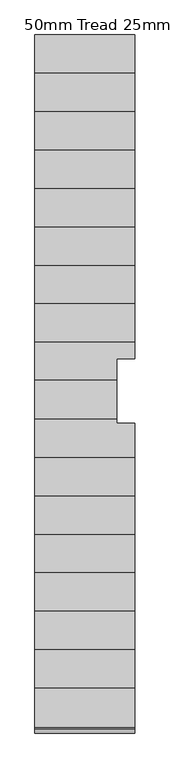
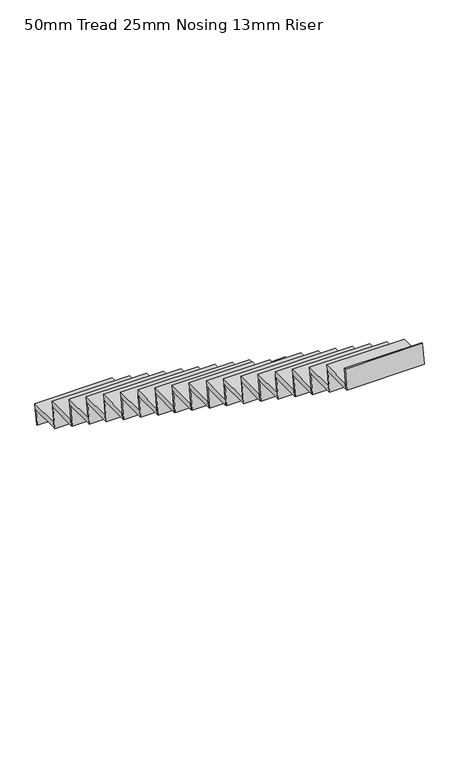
"""IFC4 building model written with IfcOpenShell, lengths in millimetres: stair flight geometry, 50mm Tread 25mm Nosing 13mm Riser."""

import ifcopenshell
import ifcopenshell.guid

model = None  # the IFC model being written
_history = None  # IfcOwnerHistory: only IFC2X3 demands one
_inside = {}  # id of a spatial element -> (the spatial element, [elements in it])
_under = {}  # id of a project, library or spatial element -> (it, [spatial elements below it])
_declared = {}  # id of a project -> (the project, [libraries it declares])
_typed = {}  # id of a type object -> (the type object, [elements of that type])
_made_of = {}  # id of a material, layer set ... -> (it, [elements and type objects made of it])


def new_model(schema):
    """Start an empty IFC model of exactly this schema.

    Asked for "IFC4X3", IfcOpenShell would pick the latest addendum, in which some entities
    have other attributes; the version numbers below select the first issue.
    IFC2X3 requires an IfcOwnerHistory on every rooted entity: one is made here for all.
    """
    global model, _history
    if schema == "IFC4X3":
        model = ifcopenshell.file(schema_version=(4, 3, 0, 0))
    else:
        model = ifcopenshell.file(schema=schema)
    _inside.clear()
    _under.clear()
    _declared.clear()
    _typed.clear()
    _made_of.clear()
    _history = None
    if model.schema == "IFC2X3":
        org = make("IfcOrganization", Name="unknown")
        user = make(
            "IfcPersonAndOrganization",
            ThePerson=make("IfcPerson", FamilyName="unknown"),
            TheOrganization=org,
        )
        app = make(
            "IfcApplication",
            ApplicationDeveloper=org,
            Version="unknown",
            ApplicationFullName="unknown",
            ApplicationIdentifier="unknown",
        )
        _history = make(
            "IfcOwnerHistory",
            OwningUser=user,
            OwningApplication=app,
            ChangeAction="ADDED",
            CreationDate=0,
        )
    return model


def make(cls, **values):
    """One entity of the class cls with the attributes given. An attribute that is None is left unset."""
    return model.create_entity(
        cls, **{name: value for name, value in values.items() if value is not None}
    )


def rooted(cls, **values):
    """An entity with a GlobalId (a new one), such as an element, a storey or a relation."""
    return make(cls, GlobalId=ifcopenshell.guid.new(), OwnerHistory=_history, **values)


def si_unit(unit_type, name, prefix=None):
    """IfcSIUnit, for example si_unit("LENGTHUNIT", "METRE", prefix="MILLI")."""
    return make("IfcSIUnit", UnitType=unit_type, Prefix=prefix, Name=name)


def assignment(units):
    """IfcUnitAssignment: the units of a project."""
    return None if units is None else make("IfcUnitAssignment", Units=units)


def point(xyz):
    """IfcCartesianPoint."""
    return None if xyz is None else make("IfcCartesianPoint", Coordinates=xyz)


def direction(xyz):
    """IfcDirection."""
    return None if xyz is None else make("IfcDirection", DirectionRatios=xyz)


def frame(location, z_axis=None, x_axis=None):
    """IfcAxis2Placement3D, a coordinate frame: its origin and axes. An axis left out is left unset."""
    return make(
        "IfcAxis2Placement3D",
        Location=point(location),
        Axis=direction(z_axis),
        RefDirection=direction(x_axis),
    )


def origin():
    """The frame at (0, 0, 0) with its axes left unset."""
    return frame((0.0, 0.0, 0.0))


def place(relative_to, where):
    """IfcLocalPlacement: puts the frame where relative to a parent placement (None: the world)."""
    return make(
        "IfcLocalPlacement", PlacementRelTo=relative_to, RelativePlacement=where
    )


def context(
    kind, dimensions, precision=None, world=None, true_north=None, identifier=None
):
    """IfcGeometricRepresentationContext, for example the 3D "Model" context."""
    return make(
        "IfcGeometricRepresentationContext",
        ContextIdentifier=identifier,
        ContextType=kind,
        CoordinateSpaceDimension=dimensions,
        Precision=precision,
        WorldCoordinateSystem=world,
        TrueNorth=true_north,
    )


def project(units=None, contexts=None):
    """IfcProject with its units and contexts."""
    return rooted(
        "IfcProject",
        Name="project",
        RepresentationContexts=contexts,
        UnitsInContext=assignment(units),
    )


def spatial(cls, under=None, at=None, **own):
    """A site, building, storey or space (cls), placed at a placement, below another one or the project."""
    s = rooted(cls, ObjectPlacement=at, **own)
    if under is not None:
        _under.setdefault(under.id(), (under, []))[1].append(s)
    return s


def faces_of(points, faces, orient=None, outer=None):
    """IfcFace entities. A face is a list of loops; a loop is a list of indices into points, from 0.

    orient and outer hold one flag for each loop. By default every Orientation is true, the
    first loop of a face is its IfcFaceOuterBound and the others are IfcFaceBound.
    """
    made = []
    for i, loops in enumerate(faces):
        bounds = []
        for j, loop in enumerate(loops):
            is_outer = j == 0 if outer is None else outer[i][j]
            bounds.append(
                make(
                    "IfcFaceOuterBound" if is_outer else "IfcFaceBound",
                    Bound=make("IfcPolyLoop", Polygon=[points[k] for k in loop]),
                    Orientation=True if orient is None else orient[i][j],
                )
            )
        made.append(make("IfcFace", Bounds=bounds))
    return made


def faceted_brep(points, faces, orient=None, outer=None, voids=None):
    """IfcFacetedBrep: a solid bounded by flat faces; with voids (closed shells), ...WithVoids."""
    shared = [point(p) for p in points]
    hull = make("IfcClosedShell", CfsFaces=faces_of(shared, faces, orient, outer))
    if voids is None:
        return make("IfcFacetedBrep", Outer=hull)
    return make(
        "IfcFacetedBrepWithVoids",
        Outer=hull,
        Voids=[
            make(cls, CfsFaces=faces_of(shared, fs, o, b)) for cls, fs, o, b in voids
        ],
    )


def shape(context_of_items, identifier, shape_type, items):
    """IfcShapeRepresentation: the items that make up one representation, for example the "Body"."""
    return make(
        "IfcShapeRepresentation",
        ContextOfItems=context_of_items,
        RepresentationIdentifier=identifier,
        RepresentationType=shape_type,
        Items=items,
    )


def source(mapping_origin, context_of_items, identifier, shape_type, items):
    """IfcRepresentationMap: a shape defined once, which mapped items show again and again."""
    return make(
        "IfcRepresentationMap",
        MappingOrigin=mapping_origin,
        MappedRepresentation=shape(context_of_items, identifier, shape_type, items),
    )


def transform(
    local_origin,
    x_axis=None,
    y_axis=None,
    z_axis=None,
    scale=None,
    scale2=None,
    scale3=None,
    uniform=True,
):
    """IfcCartesianTransformationOperator3D, or its non-uniform kind. x_axis, y_axis, z_axis: its Axis1, 2, 3."""
    if uniform:
        return make(
            "IfcCartesianTransformationOperator3D",
            Axis1=direction(x_axis),
            Axis2=direction(y_axis),
            LocalOrigin=point(local_origin),
            Scale=scale,
            Axis3=direction(z_axis),
        )
    return make(
        "IfcCartesianTransformationOperator3DnonUniform",
        Axis1=direction(x_axis),
        Axis2=direction(y_axis),
        LocalOrigin=point(local_origin),
        Scale=scale,
        Axis3=direction(z_axis),
        Scale2=scale2,
        Scale3=scale3,
    )


def mapped(mapping_source, mapping_target):
    """IfcMappedItem: shows the shape of a source again, moved by a transform."""
    return make(
        "IfcMappedItem", MappingSource=mapping_source, MappingTarget=mapping_target
    )


def made_of(thing, what):
    """Note that an element or type object is made of a material, layer set ...; save() writes the relation."""
    if what is not None:
        _made_of.setdefault(what.id(), (what, []))[1].append(thing)
    return thing


def element(
    cls,
    number,
    at=None,
    inside=None,
    cuts=None,
    type_object=None,
    material=None,
    context=None,
    identifier="Body",
    shape_type=None,
    held_by="IfcProductDefinitionShape",
    body=None,
    shapes=None,
    **own,
):
    """One element of the class cls, such as IfcWall. Its Tag is "e" and its number.

    at: its placement. inside: the storey or other place that contains it. cuts: it is an
    opening in that element (IfcRelVoidsElement). A single representation is given by context,
    identifier, shape_type and body (its items); several are given by shapes. held_by: the class
    of the entity that holds the representations. save() writes the other relations.
    """
    e = rooted(cls, Tag="e%d" % number, ObjectPlacement=at, **own)
    if body is not None:
        shapes = [shape(context, identifier, shape_type, body)]
    if shapes is not None:
        e.Representation = make(held_by, Representations=shapes)
    if inside is not None:
        _inside.setdefault(inside.id(), (inside, []))[1].append(e)
    if cuts is not None:
        rooted(
            "IfcRelVoidsElement", RelatingBuildingElement=cuts, RelatedOpeningElement=e
        )
    if type_object is not None:
        _typed.setdefault(type_object.id(), (type_object, []))[1].append(e)
    return made_of(e, material)


def aggregate(whole, parts):
    """IfcRelAggregates: a whole, such as a stair, and the parts it consists of."""
    return rooted("IfcRelAggregates", RelatingObject=whole, RelatedObjects=parts)


def save(model, path):
    """Write the relations noted so far, then the file.

    IfcRelAggregates (storeys below a building ...), IfcRelContainedInSpatialStructure (elements
    in a storey), IfcRelDefinesByType, IfcRelAssociatesMaterial and IfcRelDeclares: one each for
    every whole, place, type object, material and project.
    """
    for whole, parts in _under.values():
        aggregate(whole, parts)
    for where, things in _inside.values():
        rooted(
            "IfcRelContainedInSpatialStructure",
            RelatedElements=things,
            RelatingStructure=where,
        )
    for kind, things in _typed.values():
        rooted("IfcRelDefinesByType", RelatedObjects=things, RelatingType=kind)
    for what, things in _made_of.values():
        rooted("IfcRelAssociatesMaterial", RelatedObjects=things, RelatingMaterial=what)
    for by, libraries in _declared.values():
        rooted("IfcRelDeclares", RelatingContext=by, RelatedDefinitions=libraries)
    model.write(path)


def stair_flight_50mm_tread_25mm_nosing_13mm_riser_46b21143(model_context):
    return source(origin(), model_context, "Body", "Brep", [
        faceted_brep([(-6813.55, 5573.9361, -2558.7157895), (-6813.55, 5567.1604524, -2608.7157895), (-6115.05, 5567.1604524, -2608.7157895), (-6115.05, 5573.9361, -2558.7157895), (-6115.05, 5867.4, -2558.7157895), (-6813.55, 5867.4, -2558.7157895), (-6813.55, 5860.6243524, -2608.7157895), (-6115.05, 5860.6243524, -2608.7157895)], [[[0, 1, 2, 3]], [[3, 4, 5, 0]], [[2, 1, 6, 7]], [[4, 3, 2, 7]], [[0, 5, 6, 1]], [[5, 4, 7, 6]]]),
        faceted_brep([(-6813.55, 5860.6243524, -2608.7157895), (-6813.55, 5842.4, -2743.2), (-6813.55, 5829.7857486, -2743.2), (-6813.55, 5848.010101, -2608.7157895), (-6115.05, 5860.6243524, -2608.7157895), (-6115.05, 5848.010101, -2608.7157895), (-6115.05, 5829.7857486, -2743.2), (-6115.05, 5842.4, -2743.2)], [[[0, 1, 2, 3]], [[4, 5, 6, 7]], [[1, 0, 4, 7]], [[2, 1, 7, 6]], [[3, 2, 6, 5]], [[0, 3, 5, 4]]]),
        faceted_brep([(-6813.55, 5592.1604524, -2424.2315789), (-6813.55, 5567.1604524, -2608.7157895), (-6813.55, 5554.546201, -2608.7157895), (-6813.55, 5579.546201, -2424.2315789), (-6115.05, 5592.1604524, -2424.2315789), (-6115.05, 5579.546201, -2424.2315789), (-6115.05, 5554.546201, -2608.7157895), (-6115.05, 5567.1604524, -2608.7157895)], [[[0, 1, 2, 3]], [[4, 5, 6, 7]], [[1, 0, 4, 7]], [[2, 1, 7, 6]], [[3, 2, 6, 5]], [[0, 3, 5, 4]]]),
        faceted_brep([(-6115.05, 5305.4722, -2374.2315789), (-6115.05, 5598.9361, -2374.2315789), (-6813.55, 5598.9361, -2374.2315789), (-6813.55, 5305.4722, -2374.2315789), (-6115.05, 5298.6965524, -2424.2315789), (-6813.55, 5298.6965524, -2424.2315789), (-6813.55, 5592.1604524, -2424.2315789), (-6115.05, 5592.1604524, -2424.2315789)], [[[0, 1, 2, 3]], [[4, 5, 6, 7]], [[1, 0, 4, 7]], [[3, 2, 6, 5]], [[3, 5, 4, 0]], [[2, 1, 7, 6]]]),
        faceted_brep([(-6813.55, 5323.6965524, -2239.7473684), (-6813.55, 5298.6965524, -2424.2315789), (-6813.55, 5286.082301, -2424.2315789), (-6813.55, 5311.082301, -2239.7473684), (-6115.05, 5323.6965524, -2239.7473684), (-6115.05, 5311.082301, -2239.7473684), (-6115.05, 5286.082301, -2424.2315789), (-6115.05, 5298.6965524, -2424.2315789)], [[[0, 1, 2, 3]], [[4, 5, 6, 7]], [[1, 0, 4, 7]], [[2, 1, 7, 6]], [[3, 2, 6, 5]], [[0, 3, 5, 4]]]),
        faceted_brep([(-6115.05, 5037.0083, -2189.7473684), (-6115.05, 5330.4722, -2189.7473684), (-6813.55, 5330.4722, -2189.7473684), (-6813.55, 5037.0083, -2189.7473684), (-6115.05, 5030.2326524, -2239.7473684), (-6813.55, 5030.2326524, -2239.7473684), (-6813.55, 5323.6965524, -2239.7473684), (-6115.05, 5323.6965524, -2239.7473684)], [[[0, 1, 2, 3]], [[4, 5, 6, 7]], [[1, 0, 4, 7]], [[3, 2, 6, 5]], [[3, 5, 4, 0]], [[2, 1, 7, 6]]]),
        faceted_brep([(-6813.55, 5055.2326524, -2055.2631579), (-6813.55, 5030.2326524, -2239.7473684), (-6813.55, 5017.618401, -2239.7473684), (-6813.55, 5042.618401, -2055.2631579), (-6115.05, 5055.2326524, -2055.2631579), (-6115.05, 5042.618401, -2055.2631579), (-6115.05, 5017.618401, -2239.7473684), (-6115.05, 5030.2326524, -2239.7473684)], [[[0, 1, 2, 3]], [[4, 5, 6, 7]], [[1, 0, 4, 7]], [[2, 1, 7, 6]], [[3, 2, 6, 5]], [[0, 3, 5, 4]]]),
        faceted_brep([(-6115.05, 4768.5444, -2005.2631579), (-6115.05, 5062.0083, -2005.2631579), (-6813.55, 5062.0083, -2005.2631579), (-6813.55, 4768.5444, -2005.2631579), (-6115.05, 4761.7687524, -2055.2631579), (-6813.55, 4761.7687524, -2055.2631579), (-6813.55, 5055.2326524, -2055.2631579), (-6115.05, 5055.2326524, -2055.2631579)], [[[0, 1, 2, 3]], [[4, 5, 6, 7]], [[1, 0, 4, 7]], [[3, 2, 6, 5]], [[3, 5, 4, 0]], [[2, 1, 7, 6]]]),
        faceted_brep([(-6813.55, 4786.7687524, -1870.7789474), (-6813.55, 4761.7687524, -2055.2631579), (-6813.55, 4749.154501, -2055.2631579), (-6813.55, 4774.154501, -1870.7789474), (-6115.05, 4786.7687524, -1870.7789474), (-6115.05, 4774.154501, -1870.7789474), (-6115.05, 4749.154501, -2055.2631579), (-6115.05, 4761.7687524, -2055.2631579)], [[[0, 1, 2, 3]], [[4, 5, 6, 7]], [[1, 0, 4, 7]], [[2, 1, 7, 6]], [[3, 2, 6, 5]], [[0, 3, 5, 4]]]),
        faceted_brep([(-6115.05, 4500.0806, -1820.7789474), (-6115.05, 4793.5444, -1820.7789474), (-6813.55, 4793.5444, -1820.7789474), (-6813.55, 4500.0806, -1820.7789474), (-6115.05, 4493.3049524, -1870.7789474), (-6813.55, 4493.3049524, -1870.7789474), (-6813.55, 4786.7687524, -1870.7789474), (-6115.05, 4786.7687524, -1870.7789474)], [[[0, 1, 2, 3]], [[4, 5, 6, 7]], [[1, 0, 4, 7]], [[3, 2, 6, 5]], [[3, 5, 4, 0]], [[2, 1, 7, 6]]]),
        faceted_brep([(-6813.55, 4518.3049524, -1686.2947368), (-6813.55, 4493.3049524, -1870.7789474), (-6813.55, 4480.690701, -1870.7789474), (-6813.55, 4505.690701, -1686.2947368), (-6115.05, 4518.3049524, -1686.2947368), (-6115.05, 4505.690701, -1686.2947368), (-6115.05, 4480.690701, -1870.7789474), (-6115.05, 4493.3049524, -1870.7789474)], [[[0, 1, 2, 3]], [[4, 5, 6, 7]], [[1, 0, 4, 7]], [[2, 1, 7, 6]], [[3, 2, 6, 5]], [[0, 3, 5, 4]]]),
        faceted_brep([(-6115.05, 4231.6167, -1636.2947368), (-6115.05, 4525.0806, -1636.2947368), (-6813.55, 4525.0806, -1636.2947368), (-6813.55, 4231.6167, -1636.2947368), (-6115.05, 4224.8410524, -1686.2947368), (-6813.55, 4224.8410524, -1686.2947368), (-6813.55, 4518.3049524, -1686.2947368), (-6115.05, 4518.3049524, -1686.2947368)], [[[0, 1, 2, 3]], [[4, 5, 6, 7]], [[1, 0, 4, 7]], [[3, 2, 6, 5]], [[3, 5, 4, 0]], [[2, 1, 7, 6]]]),
        faceted_brep([(-6813.55, 4249.8410524, -1501.8105263), (-6813.55, 4224.8410524, -1686.2947368), (-6813.55, 4212.226801, -1686.2947368), (-6813.55, 4237.226801, -1501.8105263), (-6115.05, 4249.8410524, -1501.8105263), (-6115.05, 4237.226801, -1501.8105263), (-6115.05, 4212.226801, -1686.2947368), (-6115.05, 4224.8410524, -1686.2947368)], [[[0, 1, 2, 3]], [[4, 5, 6, 7]], [[1, 0, 4, 7]], [[2, 1, 7, 6]], [[3, 2, 6, 5]], [[0, 3, 5, 4]]]),
        faceted_brep([(-6115.05, 3963.1528, -1451.8105263), (-6115.05, 4256.6167, -1451.8105263), (-6813.55, 4256.6167, -1451.8105263), (-6813.55, 3963.1528, -1451.8105263), (-6115.05, 3956.3771524, -1501.8105263), (-6813.55, 3956.3771524, -1501.8105263), (-6813.55, 4249.8410524, -1501.8105263), (-6115.05, 4249.8410524, -1501.8105263)], [[[0, 1, 2, 3]], [[4, 5, 6, 7]], [[1, 0, 4, 7]], [[3, 2, 6, 5]], [[3, 5, 4, 0]], [[2, 1, 7, 6]]]),
        faceted_brep([(-6813.55, 3712.9132524, -1132.8421053), (-6813.55, 3687.9132524, -1317.3263158), (-6813.55, 3675.299001, -1317.3263158), (-6813.55, 3700.299001, -1132.8421053), (-6115.05, 3712.9132524, -1132.8421053), (-6115.05, 3700.299001, -1132.8421053), (-6115.05, 3675.299001, -1317.3263158), (-6115.05, 3687.9132524, -1317.3263158)], [[[0, 1, 2, 3]], [[4, 5, 6, 7]], [[1, 0, 4, 7]], [[2, 1, 7, 6]], [[3, 2, 6, 5]], [[0, 3, 5, 4]]]),
        faceted_brep([(-6242.05, 3429.4, -1082.8421053), (-6242.05, 3606.8, -1082.8421053), (-6115.05, 3606.8, -1082.8421053), (-6115.05, 3719.6889, -1082.8421053), (-6813.55, 3719.6889, -1082.8421053), (-6813.55, 3429.4, -1082.8421053), (-6115.05, 3606.8, -1132.8421053), (-6242.05, 3606.8, -1132.8421053), (-6242.05, 3422.6243524, -1132.8421053), (-6813.55, 3422.6243524, -1132.8421053), (-6813.55, 3712.9132524, -1132.8421053), (-6115.05, 3712.9132524, -1132.8421053)], [[[0, 1, 2, 3, 4, 5]], [[6, 7, 8, 9, 10, 11]], [[1, 0, 8, 7]], [[5, 4, 10, 9]], [[5, 9, 8, 0]], [[4, 3, 11, 10]], [[2, 1, 7, 6]], [[3, 2, 6, 11]]]),
        faceted_brep([(-6813.55, 3447.6243524, -948.3578947), (-6813.55, 3422.6243524, -1132.8421053), (-6813.55, 3410.010101, -1132.8421053), (-6813.55, 3435.010101, -948.3578947), (-6242.05, 3447.6243524, -948.3578947), (-6242.05, 3435.010101, -948.3578947), (-6242.05, 3410.010101, -1132.8421053), (-6242.05, 3422.6243524, -1132.8421053)], [[[0, 1, 2, 3]], [[4, 5, 6, 7]], [[1, 0, 4, 7]], [[2, 1, 7, 6]], [[3, 2, 6, 5]], [[0, 3, 5, 4]]]),
        faceted_brep([(-6242.05, 3156.3499238, -898.3578947), (-6242.05, 3454.4, -898.3578947), (-6813.55, 3454.4, -898.3578947), (-6813.55, 3157.7610238, -898.3578947), (-6242.05, 3149.5742555, -948.3578947), (-6813.55, 3150.9853555, -948.3578947), (-6813.55, 3447.6243524, -948.3578947), (-6242.05, 3447.6243524, -948.3578947)], [[[0, 1, 2, 3]], [[4, 5, 6, 7]], [[1, 0, 4, 7]], [[3, 2, 6, 5]], [[3, 5, 4, 0]], [[2, 1, 7, 6]]]),
        faceted_brep([(-6813.55, 3175.9854317, -763.8736842), (-6813.55, 3150.9853555, -948.3578947), (-6813.55, 3138.3710657, -948.3578947), (-6813.55, 3163.3711419, -763.8736842), (-6242.05, 3174.5743317, -763.8736842), (-6242.05, 3161.9600419, -763.8736842), (-6242.05, 3136.9599657, -948.3578947), (-6242.05, 3149.5742555, -948.3578947)], [[[0, 1, 2, 3]], [[4, 5, 6, 7]], [[1, 0, 4, 7]], [[2, 1, 7, 6]], [[3, 2, 6, 5]], [[0, 3, 5, 4]]]),
        faceted_brep([(-6115.05, 2889.2972, -713.8736842), (-6115.05, 3155.95, -713.8736842), (-6242.05, 3155.95, -713.8736842), (-6242.05, 3181.35, -713.8736842), (-6813.55, 3182.7611, -713.8736842), (-6813.55, 2889.2972, -713.8736842), (-6242.05, 3155.95, -763.8736842), (-6115.05, 3155.95, -763.8736842), (-6115.05, 2882.5215524, -763.8736842), (-6813.55, 2882.5215524, -763.8736842), (-6813.55, 3175.9854317, -763.8736842), (-6242.05, 3174.5743317, -763.8736842)], [[[0, 1, 2, 3, 4, 5]], [[6, 7, 8, 9, 10, 11]], [[1, 0, 8, 7]], [[5, 4, 10, 9]], [[5, 9, 8, 0]], [[4, 3, 11, 10]], [[2, 1, 7, 6]], [[3, 2, 6, 11]]]),
        faceted_brep([(-6813.55, 2370.5937524, -210.4210526), (-6813.55, 2345.5937524, -394.9052632), (-6813.55, 2332.979501, -394.9052632), (-6813.55, 2357.979501, -210.4210526), (-6115.05, 2370.5937524, -210.4210526), (-6115.05, 2357.979501, -210.4210526), (-6115.05, 2332.979501, -394.9052632), (-6115.05, 2345.5937524, -394.9052632)], [[[0, 1, 2, 3]], [[4, 5, 6, 7]], [[1, 0, 4, 7]], [[2, 1, 7, 6]], [[3, 2, 6, 5]], [[0, 3, 5, 4]]]),
        faceted_brep([(-6115.05, 2083.9056, -160.4210526), (-6115.05, 2377.3694, -160.4210526), (-6813.55, 2377.3694, -160.4210526), (-6813.55, 2083.9056, -160.4210526), (-6115.05, 2077.1299524, -210.4210526), (-6813.55, 2077.1299524, -210.4210526), (-6813.55, 2370.5937524, -210.4210526), (-6115.05, 2370.5937524, -210.4210526)], [[[0, 1, 2, 3]], [[4, 5, 6, 7]], [[1, 0, 4, 7]], [[3, 2, 6, 5]], [[3, 5, 4, 0]], [[2, 1, 7, 6]]]),
        faceted_brep([(-6813.55, 2102.1299524, -25.9368421), (-6813.55, 2077.1299524, -210.4210526), (-6813.55, 2064.515701, -210.4210526), (-6813.55, 2089.515701, -25.9368421), (-6115.05, 2102.1299524, -25.9368421), (-6115.05, 2089.515701, -25.9368421), (-6115.05, 2064.515701, -210.4210526), (-6115.05, 2077.1299524, -210.4210526)], [[[0, 1, 2, 3]], [[4, 5, 6, 7]], [[1, 0, 4, 7]], [[2, 1, 7, 6]], [[3, 2, 6, 5]], [[0, 3, 5, 4]]]),
        faceted_brep([(-6115.05, 1815.4417, 24.0631579), (-6115.05, 2108.9056, 24.0631579), (-6813.55, 2108.9056, 24.0631579), (-6813.55, 1815.4417, 24.0631579), (-6115.05, 1808.6660524, -25.9368421), (-6813.55, 1808.6660524, -25.9368421), (-6813.55, 2102.1299524, -25.9368421), (-6115.05, 2102.1299524, -25.9368421)], [[[0, 1, 2, 3]], [[4, 5, 6, 7]], [[1, 0, 4, 7]], [[3, 2, 6, 5]], [[3, 5, 4, 0]], [[2, 1, 7, 6]]]),
        faceted_brep([(-6813.55, 1833.6660524, 158.5473684), (-6813.55, 1808.6660524, -25.9368421), (-6813.55, 1796.051801, -25.9368421), (-6813.55, 1821.051801, 158.5473684), (-6115.05, 1833.6660524, 158.5473684), (-6115.05, 1821.051801, 158.5473684), (-6115.05, 1796.051801, -25.9368421), (-6115.05, 1808.6660524, -25.9368421)], [[[0, 1, 2, 3]], [[4, 5, 6, 7]], [[1, 0, 4, 7]], [[2, 1, 7, 6]], [[3, 2, 6, 5]], [[0, 3, 5, 4]]]),
        faceted_brep([(-6115.05, 1546.9778, 208.5473684), (-6115.05, 1840.4417, 208.5473684), (-6813.55, 1840.4417, 208.5473684), (-6813.55, 1546.9778, 208.5473684), (-6115.05, 1540.2021524, 158.5473684), (-6813.55, 1540.2021524, 158.5473684), (-6813.55, 1833.6660524, 158.5473684), (-6115.05, 1833.6660524, 158.5473684)], [[[0, 1, 2, 3]], [[4, 5, 6, 7]], [[1, 0, 4, 7]], [[3, 2, 6, 5]], [[3, 5, 4, 0]], [[2, 1, 7, 6]]]),
        faceted_brep([(-6813.55, 1565.2021524, 343.0315789), (-6813.55, 1540.2021524, 158.5473684), (-6813.55, 1527.587901, 158.5473684), (-6813.55, 1552.587901, 343.0315789), (-6115.05, 1565.2021524, 343.0315789), (-6115.05, 1552.587901, 343.0315789), (-6115.05, 1527.587901, 158.5473684), (-6115.05, 1540.2021524, 158.5473684)], [[[0, 1, 2, 3]], [[4, 5, 6, 7]], [[1, 0, 4, 7]], [[2, 1, 7, 6]], [[3, 2, 6, 5]], [[0, 3, 5, 4]]]),
        faceted_brep([(-6115.05, 1278.5139, 393.0315789), (-6115.05, 1571.9778, 393.0315789), (-6813.55, 1571.9778, 393.0315789), (-6813.55, 1278.5139, 393.0315789), (-6115.05, 1271.7382524, 343.0315789), (-6813.55, 1271.7382524, 343.0315789), (-6813.55, 1565.2021524, 343.0315789), (-6115.05, 1565.2021524, 343.0315789)], [[[0, 1, 2, 3]], [[4, 5, 6, 7]], [[1, 0, 4, 7]], [[3, 2, 6, 5]], [[3, 5, 4, 0]], [[2, 1, 7, 6]]]),
        faceted_brep([(-6813.55, 1296.7382524, 527.5157895), (-6813.55, 1271.7382524, 343.0315789), (-6813.55, 1259.124001, 343.0315789), (-6813.55, 1284.124001, 527.5157895), (-6115.05, 1296.7382524, 527.5157895), (-6115.05, 1284.124001, 527.5157895), (-6115.05, 1259.124001, 343.0315789), (-6115.05, 1271.7382524, 343.0315789)], [[[0, 1, 2, 3]], [[4, 5, 6, 7]], [[1, 0, 4, 7]], [[2, 1, 7, 6]], [[3, 2, 6, 5]], [[0, 3, 5, 4]]]),
        faceted_brep([(-6813.55, 1028.2743524, 712.0), (-6813.55, 1003.2743524, 527.5157895), (-6813.55, 990.660101, 527.5157895), (-6813.55, 1015.660101, 712.0), (-6115.05, 1028.2743524, 712.0), (-6115.05, 1015.660101, 712.0), (-6115.05, 990.660101, 527.5157895), (-6115.05, 1003.2743524, 527.5157895)], [[[0, 1, 2, 3]], [[4, 5, 6, 7]], [[1, 0, 4, 7]], [[2, 1, 7, 6]], [[3, 2, 6, 5]], [[0, 3, 5, 4]]]),
        faceted_brep([(-6115.05, 1010.05, 577.5157895), (-6115.05, 1303.5139, 577.5157895), (-6813.55, 1303.5139, 577.5157895), (-6813.55, 1010.05, 577.5157895), (-6115.05, 1003.2743524, 527.5157895), (-6813.55, 1003.2743524, 527.5157895), (-6813.55, 1296.7382524, 527.5157895), (-6115.05, 1296.7382524, 527.5157895)], [[[0, 1, 2, 3]], [[4, 5, 6, 7]], [[1, 0, 4, 7]], [[3, 2, 6, 5]], [[3, 5, 4, 0]], [[2, 1, 7, 6]]]),
        faceted_brep([(-6813.55, 3981.3771524, -1317.3263158), (-6813.55, 3956.3771524, -1501.8105263), (-6813.55, 3943.762901, -1501.8105263), (-6813.55, 3968.762901, -1317.3263158), (-6115.05, 3981.3771524, -1317.3263158), (-6115.05, 3968.762901, -1317.3263158), (-6115.05, 3943.762901, -1501.8105263), (-6115.05, 3956.3771524, -1501.8105263)], [[[0, 1, 2, 3]], [[4, 5, 6, 7]], [[1, 0, 4, 7]], [[2, 1, 7, 6]], [[3, 2, 6, 5]], [[0, 3, 5, 4]]]),
        faceted_brep([(-6115.05, 3694.6889, -1267.3263158), (-6115.05, 3988.1528, -1267.3263158), (-6813.55, 3988.1528, -1267.3263158), (-6813.55, 3694.6889, -1267.3263158), (-6115.05, 3687.9132524, -1317.3263158), (-6813.55, 3687.9132524, -1317.3263158), (-6813.55, 3981.3771524, -1317.3263158), (-6115.05, 3981.3771524, -1317.3263158)], [[[0, 1, 2, 3]], [[4, 5, 6, 7]], [[1, 0, 4, 7]], [[3, 2, 6, 5]], [[3, 5, 4, 0]], [[2, 1, 7, 6]]]),
        faceted_brep([(-6813.55, 2907.5215524, -579.3894737), (-6813.55, 2882.5215524, -763.8736842), (-6813.55, 2869.907301, -763.8736842), (-6813.55, 2894.907301, -579.3894737), (-6115.05, 2907.5215524, -579.3894737), (-6115.05, 2894.907301, -579.3894737), (-6115.05, 2869.907301, -763.8736842), (-6115.05, 2882.5215524, -763.8736842)], [[[0, 1, 2, 3]], [[4, 5, 6, 7]], [[1, 0, 4, 7]], [[2, 1, 7, 6]], [[3, 2, 6, 5]], [[0, 3, 5, 4]]]),
        faceted_brep([(-6115.05, 2620.8333, -529.3894737), (-6115.05, 2914.2972, -529.3894737), (-6813.55, 2914.2972, -529.3894737), (-6813.55, 2620.8333, -529.3894737), (-6115.05, 2614.0576524, -579.3894737), (-6813.55, 2614.0576524, -579.3894737), (-6813.55, 2907.5215524, -579.3894737), (-6115.05, 2907.5215524, -579.3894737)], [[[0, 1, 2, 3]], [[4, 5, 6, 7]], [[1, 0, 4, 7]], [[3, 2, 6, 5]], [[3, 5, 4, 0]], [[2, 1, 7, 6]]]),
        faceted_brep([(-6813.55, 2639.0576524, -394.9052632), (-6813.55, 2614.0576524, -579.3894737), (-6813.55, 2601.443401, -579.3894737), (-6813.55, 2626.443401, -394.9052632), (-6115.05, 2639.0576524, -394.9052632), (-6115.05, 2626.443401, -394.9052632), (-6115.05, 2601.443401, -579.3894737), (-6115.05, 2614.0576524, -579.3894737)], [[[0, 1, 2, 3]], [[4, 5, 6, 7]], [[1, 0, 4, 7]], [[2, 1, 7, 6]], [[3, 2, 6, 5]], [[0, 3, 5, 4]]]),
        faceted_brep([(-6115.05, 2352.3694, -344.9052632), (-6115.05, 2645.8333, -344.9052632), (-6813.55, 2645.8333, -344.9052632), (-6813.55, 2352.3694, -344.9052632), (-6115.05, 2345.5937524, -394.9052632), (-6813.55, 2345.5937524, -394.9052632), (-6813.55, 2639.0576524, -394.9052632), (-6115.05, 2639.0576524, -394.9052632)], [[[0, 1, 2, 3]], [[4, 5, 6, 7]], [[1, 0, 4, 7]], [[3, 2, 6, 5]], [[3, 5, 4, 0]], [[2, 1, 7, 6]]]),
    ])


if __name__ == "__main__":
    model = new_model("IFC4")
    model_context = context("Model", 3, world=origin())
    ifc_project = project(units=[si_unit("LENGTHUNIT", "METRE", prefix="MILLI")], contexts=[model_context])
    site = spatial("IfcSite", under=ifc_project)
    building = spatial("IfcBuilding", under=site)
    placement = place(None, origin())
    stair_flight_50mm_tread_25mm_nosing_13mm_riser_shape = stair_flight_50mm_tread_25mm_nosing_13mm_riser_46b21143(model_context)
    element("IfcStairFlight", 1, ObjectType="50mm Tread 25mm Nosing 13mm Riser", at=placement, inside=building, context=model_context, shape_type="MappedRepresentation", body=[
        mapped(stair_flight_50mm_tread_25mm_nosing_13mm_riser_shape, transform((0.0, 0.0, 0.0), x_axis=(1.0, 0.0, 0.0), y_axis=(0.0, 1.0, 0.0), z_axis=(0.0, 0.0, 1.0))),
    ])
    save(model, "model.ifc")
